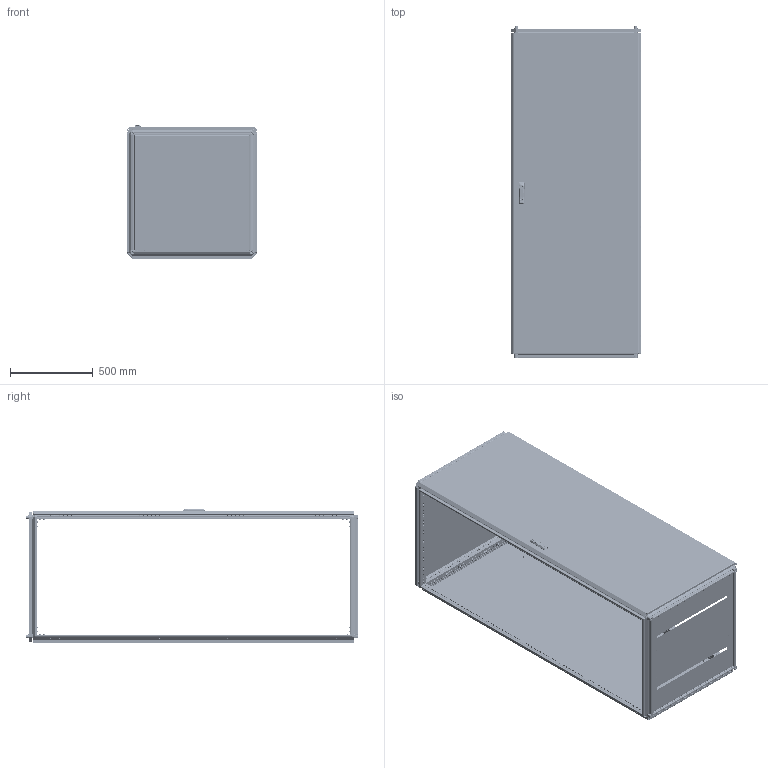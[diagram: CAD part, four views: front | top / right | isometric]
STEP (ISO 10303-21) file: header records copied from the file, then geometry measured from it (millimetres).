
FILE_DESCRIPTION (( 'STEP AP203' ), '1' );
FILE_NAME ('MA1.000.080820.10.00 AleSta2088 Øêàô AleSta 800õ800õ2000.STEP', '2024-08-23T08:29:32', ( '' ), ( '' ), 'SwSTEP 2.0', 'SolidWorks 2021', '' );
FILE_SCHEMA (( 'CONFIG_CONTROL_DESIGN' ));
Length unit declared in the file: millimetre
Products named in the file (49): äåðæàòåëü_êðóãëîé_òÿãèRG002-RG1010-2-i-RG1010-3-.stp; ﾘ琺矜 01.019 ﾃﾎﾑﾒ11371-78_12; Ãàéêà ñàìîêîíòðÿùàÿñÿ ñ íåéëîíîâîé âñòàâêîé Ì6 DIN 985, êëàññ ïðî÷íîñòè 8, îöèíêîâàííàÿ ñòàëü_Œ6; Øïèëüêà Ì6õ12_˜¯¨«ìª  Œ6å12; MA1.200.060620.30.00 AleSta-D20M600 Äâåðü ñïëîøíàÿ äëÿ øêàôîâ ALESTA ÂõØ 2000õ600_2000å800; 諘蜱齁罻 022 瀁錒瀔隮; Âèíò ñàìîíàðåçàþùèé ñ ïîòàéíîé ãîëîâêîé Ì5x14 DIN 7500 M TORX, êëàññ ïðî÷íîñòè 8.8, îöèíêîâàííàÿ ñòàëü_Œ5å12; Øàéáà ñòîïîðíàÿ ñ íàðóæíûìè çóáöàìè SCHNORR, òèï VS öèíêîâûå õëîïüÿ Ì6 O6,4 ART 88121_Œ6; MA1.200.060620.31.03 Ðåéêà íà äâåðü ãîðèçîíòàëüíàÿ Ø = 600_˜=800; Óïëîòíèòåëü ïàíåëè íèæíåé_ ‚=2000; MA1.101.060620.20.00 Íèæíÿÿ ïàíåëü 600õ600_800å800; MA1.200.060620.31.00 Äâåðü ñïëîøíàÿ äëÿ øêàôîâ ALESTA ÂõØ 2000õ600_2000å800; MA1.101.060620.00.02 Ïðîôèëü ïîïåðå÷íûé ñâàðíîé_02 L=698 (˜=800) ; MA1.200.060620.11.00 Ïàíåëü çàäíÿÿ, äëÿ øêàôîâ AleSta, 2000x600_2000å800; MA1.101.060620.10.00 Êðûøà 600x600_800å800; Âèíò ñàìîíàðåçàþùèé ñ ïîòàéíîé ãîëîâêîé Ì5x14 DIN 7500 M TORX, êëàññ ïðî÷íîñòè 8.8, îöèíêîâàííàÿ ñòàëü_Œ5å14; MA1.200.060620.31.04 ðèãåëü çàìêà äâåðè; MA1.200.060620.11.01 Ïîëîòíî çàäíåé ïàíåëè 2000õ600_2000å800; ﾘ琺矜 65ﾃ 019 ﾃﾎﾑﾒ 6402-70_12; MA1.200.060620.31.01 Ïîëîòíî äâåðè ñïëîøíîé 2000õ600_2000å800; Ïðîáêà ïëàñòèêîâàÿ óíèâåðñàëüíàÿ ïîä îòâåðñòèå 4,5 ìì, ñåðèÿ ST, öâåò áåñöâåòíûé – ST4,5; Âèíò ðåçüáîâûäàâëèâàþùèé Ì6õ12 DIN 7500E_Œ6å10; MA1.102.060620.00.00 AleSta-VG2000 Ñòîéêè âåðòèêàëüíûå, Â=2000ìì  (4øò)_800å800; MA1.102.060620.00.01 Ïðîôèëü âåðòèêàëüíûé ñâàðíîé_04 L=1898 (‚=2000); Áîëò øåñòèãðàííûé Ì5õ12 DIN 933, êëàññ ïðî÷íîñòè 8.8, îöèíêîâàííàÿ ñòàëü; MA1.101.060620.10.01 Ïîëîòíî êðûøè 600õ600_800x800; Âèíò ñ âí. øåñòèãðàííèêîì M12 DIN912_•30; MA1.000.080820.10.00 AleSta2088 Øêàô AleSta 800õ800õ2000; ﾇﾀﾊﾋﾅﾏﾊﾀ ﾃﾀﾅﾗﾍﾀﾟ ﾘﾅﾑﾒﾈﾃﾐﾀﾍﾍﾀﾟ ﾑ ﾓﾌﾅﾍﾜﾘﾅﾍﾍﾛﾌ ﾁﾎﾐﾒﾎﾌ M4 X 11 (0.5-2.5 ﾌﾌ) HEX U-S ﾖﾈﾍﾊ; êðåïëåíèå_êðóãëîé_òÿãè_RG1020-1.stp; MA1.200.060620.31.02 Ðåéêà íà äâåðü âåðòèêàëüíàÿ Â = 2000_‚ =2000; 7380-2 ISO Âèíòû ñ ïîëóêðóãëîé ãîëîâêîé ñ ôëàíöåì ñ âíóòðåííèì øåñòèãðàííèêîì Ì4õ10; Ïåòëÿ íà äâåðü ï-îáðàçíàÿ; MS463-2-3(1); MA1.200.060620.31.05 Óãëîâîé óïîð äâåðíîé òÿãè; Óïëîòíèòåëü ïàíåëè íèæíåé_800å800; Îñü ïåòëè 4õ52_‚¨­â A.M4x0,5x40 ƒŽ‘’ 11644-75; MA1.200.060620.10.00 AleSta-PR206  Ïàíåëü çàäíÿÿ, äëÿ øêàôîâ ALESTA, 2000 x 600_2000å800; Ãàéêà ñàìîêîíòðÿùàÿñÿ ñ íåéëîíîâîé âñòàâêîé Ì6 DIN 985, êëàññ ïðî÷íîñòè 8, îöèíêîâàííàÿ ñòàëü_Œ5; òÿãà_lg001-2.STEP_‚=2000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
Assembly tree (337 placements, depth 4):
  Ïðîáêà ïëàñòèêîâàÿ óíèâåðñàëüíàÿ ïîä îòâåðñòèå 4,5 ìì, ñåðèÿ ST, öâåò áåñöâåòíûé – ST4,5
  MA1.000.080820.10.00 AleSta2088 Øêàô AleSta 800õ800õ2000
    MA1.101.060620.00.00 AleSta-RB66 Êîìïëåêò êðûøà è îñíîâàíèå_800å800
      MA1.101.060620.00.02 Ïðîôèëü ïîïåðå÷íûé ñâàðíîé_02 L=698 (˜=800)   x8
      MA1.101.060620.10.00 Êðûøà 600x600_800å800
        MA1.101.060620.10.01 Ïîëîòíî êðûøè 600õ600_800x800
        Øïèëüêà Ì6õ12_˜¯¨«ìª  Œ6å12  x4
        Óïëîòíèòåëü ïàíåëè íèæíåé_800å800
      MA1.101.060620.20.00 Íèæíÿÿ ïàíåëü 600õ600_800å800
        MA1.101.060620.20.01 Ïîëîòíî íèæíåé ïàíåëè 600õ600_800å800
        ﾇﾀﾊﾋﾅﾏﾊﾀ ﾃﾀﾅﾗﾍﾀﾟ ﾘﾅﾑﾒﾈﾃﾐﾀﾍﾍﾀﾟ ﾑ ﾓﾌﾅﾍﾜﾘﾅﾍﾍﾛﾌ ﾁﾎﾐﾒﾎﾌ M4 X 11 (0.5-2.5 ﾌﾌ) HEX U-S ﾖﾈﾍﾊ  x4
        MA1.101.060620.20.02 Çàêðûòèå íèæíåé ïàíåëè 600õ600_800x800  x2
        7380-2 ISO Âèíòû ñ ïîëóêðóãëîé ãîëîâêîé ñ ôëàíöåì ñ âíóòðåííèì øåñòèãðàííèêîì Ì4õ10  x4
      Âèíò_ðåçüáîâûäàâëèâàþùèé_Ì5õ12_DIN 7500E_Œ5å12  x8
      MA1.100.060620.00.01 Ñîåäèíèòåëü óãëîâîé_00  x8
      Âèíò ñ âí. øåñòèãðàííèêîì M12 DIN912_•30  x4
      Âèíò ðåçüáîâûäàâëèâàþùèé Ì6õ12 DIN 7500E_Œ6å10  x96
      ﾘ琺矜 01.019 ﾃﾎﾑﾒ11371-78_12  x4
      ﾘ琺矜 65ﾃ 019 ﾃﾎﾑﾒ 6402-70_12  x4
      Øàéáà ñòîïîðíàÿ ñ íàðóæíûìè çóáöàìè SCHNORR, òèï VS öèíêîâûå õëîïüÿ Ì6 O6,4 ART 88121_Œ6  x80
    MA1.102.060620.00.00 AleSta-VG2000 Ñòîéêè âåðòèêàëüíûå, Â=2000ìì  (4øò)_800å800
      MA1.102.060620.00.01 Ïðîôèëü âåðòèêàëüíûé ñâàðíîé_04 L=1898 (‚=2000)  x4
    MA1.200.060620.10.00 AleSta-PR206  Ïàíåëü çàäíÿÿ, äëÿ øêàôîâ ALESTA, 2000 x 600_2000å800
      MA1.200.060620.11.00 Ïàíåëü çàäíÿÿ, äëÿ øêàôîâ AleSta, 2000x600_2000å800
        MA1.200.060620.11.01 Ïîëîòíî çàäíåé ïàíåëè 2000õ600_2000å800
        Óïëîòíèòåëü ïàíåëè íèæíåé_ ‚=2000
        Øïèëüêà Ì6õ12_˜¯¨«ìª  Œ6å12  x4
      Âèíò ñàìîíàðåçàþùèé ñ ïîòàéíîé ãîëîâêîé Ì5x14 DIN 7500 M TORX, êëàññ ïðî÷íîñòè 8.8, îöèíêîâàííàÿ ñòàëü_Œ5å14  x8
    MA1.200.060620.30.00 AleSta-D20M600 Äâåðü ñïëîøíàÿ äëÿ øêàôîâ ALESTA ÂõØ 2000õ600_2000å800
      MA1.200.060620.31.00 Äâåðü ñïëîøíàÿ äëÿ øêàôîâ ALESTA ÂõØ 2000õ600_2000å800
        MA1.200.060620.31.01 Ïîëîòíî äâåðè ñïëîøíîé 2000õ600_2000å800
        Óïëîòíèòåëü ïàíåëè íèæíåé_ ‚=2000
        Øïèëüêà Ì6õ12_˜¯¨«ìª  Œ6å20  x16
        Øïèëüêà Ì6õ12_˜¯¨«ìª  Œ6å16  x4
        Ïåòëÿ íà äâåðü ï-îáðàçíàÿ  x4
      MA1.200.060620.31.03 Ðåéêà íà äâåðü ãîðèçîíòàëüíàÿ Ø = 600_˜=800  x2
      諘蜱齁罻 022 瀁錒瀔隮  x4
      MA1.200.060620.31.02 Ðåéêà íà äâåðü âåðòèêàëüíàÿ Â = 2000_‚ =2000  x2
      äåðæàòåëü_êðóãëîé_òÿãèRG002-RG1010-2-i-RG1010-3-.stp  x2
      òÿãà_lg001-2.STEP_‚=2000  x2
      êðåïëåíèå_êðóãëîé_òÿãè_RG1020-1.stp  x2
      MS463-2-3(1)
      Ãàéêà ñàìîêîíòðÿùàÿñÿ ñ íåéëîíîâîé âñòàâêîé Ì6 DIN 985, êëàññ ïðî÷íîñòè 8, îöèíêîâàííàÿ ñòàëü_Œ6  x16
      Ãàéêà ñàìîêîíòðÿùàÿñÿ ñ íåéëîíîâîé âñòàâêîé Ì6 DIN 985, êëàññ ïðî÷íîñòè 8, îöèíêîâàííàÿ ñòàëü_Œ5  x2
      Áîëò øåñòèãðàííûé Ì5õ12 DIN 933, êëàññ ïðî÷íîñòè 8.8, îöèíêîâàííàÿ ñòàëü  x2
      MA1.200.060620.31.04 ðèãåëü çàìêà äâåðè
      MA1.200.060620.31.05 Óãëîâîé óïîð äâåðíîé òÿãè  x2
      Âèíò_ðåçüáîâûäàâëèâàþùèé_Ì5õ12_DIN 7500E_00  x2
      Íàâåñêà íà êîðïóñ ïîä êëåïêó  x4
      Îñü ïåòëè 4õ52_‚¨­â A.M4x0,5x40 ƒŽ‘’ 11644-75  x4
      Âèíò ñàìîíàðåçàþùèé ñ ïîòàéíîé ãîëîâêîé Ì5x14 DIN 7500 M TORX, êëàññ ïðî÷íîñòè 8.8, îöèíêîâàííàÿ ñòàëü_Œ5å12  x8
Bounding box: 792 x 2010.9 x 816.8 mm (x, y, z)
Volume: 11240165.5 mm3; surface area: 14873661.4 mm2
Topology: 364 solids, 378 shells, 24619 faces, 63894 edges, 40104 vertices
Faces by surface type: plane 14761, cylinder 7165, bspline 921, cone 845, torus 829, sphere 98
Entity records: 243373 total; most frequent: CARTESIAN_POINT 78963, ORIENTED_EDGE 31422, DIRECTION 30850, EDGE_CURVE 15728, AXIS2_PLACEMENT_3D 10604, VERTEX_POINT 9825, VECTOR 9642, LINE 9642
